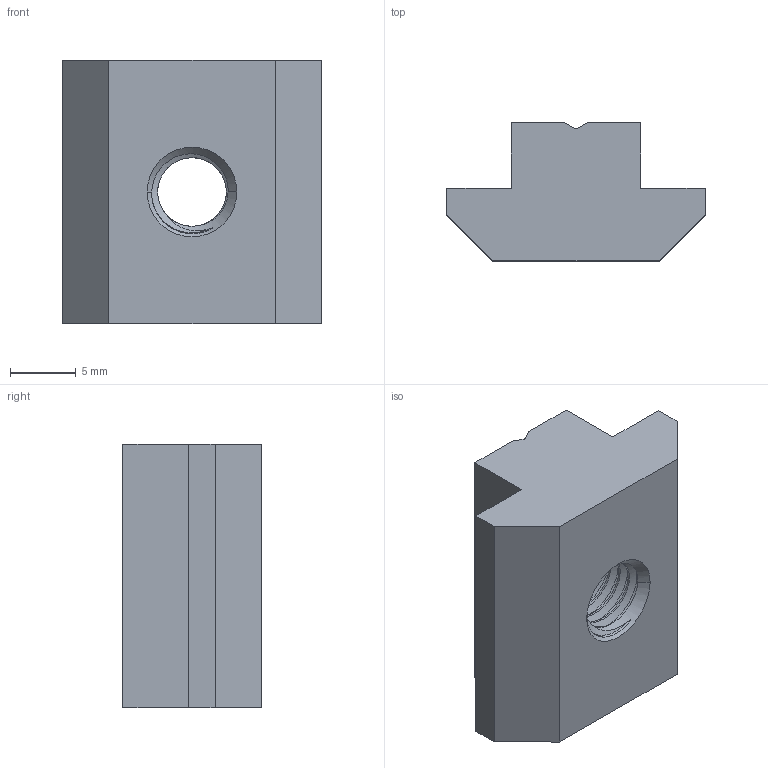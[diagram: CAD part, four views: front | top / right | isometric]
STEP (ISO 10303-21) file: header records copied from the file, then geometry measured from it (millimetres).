
FILE_DESCRIPTION (( 'STEP AP203' ), '1' );
FILE_NAME ('2125.010.003.STEP', '2023-05-24T05:27:39', ( '' ), ( '' ), 'SwSTEP 2.0', 'SolidWorks 2022', '' );
FILE_SCHEMA (( 'CONFIG_CONTROL_DESIGN' ));
Length unit declared in the file: millimetre
Products named in the file (1): 2125.010.003
Bounding box: 19.6 x 10.5 x 20 mm (x, y, z)
Volume: 2603.2 mm3; surface area: 1648.4 mm2
Topology: 1 solids, 1 shells, 47 faces, 138 edges, 92 vertices
Faces by surface type: cylinder 21, plane 17, cone 5, bspline 4
Entity records: 5145 total; most frequent: CARTESIAN_POINT 3985, ORIENTED_EDGE 276, DIRECTION 174, EDGE_CURVE 138, VERTEX_POINT 92, VECTOR 66, LINE 66, AXIS2_PLACEMENT_3D 54
